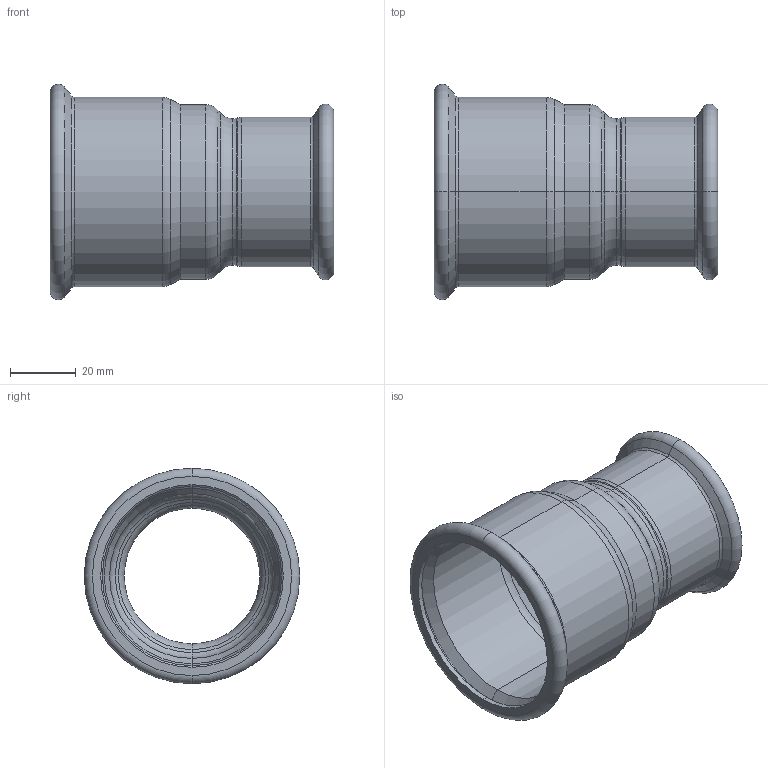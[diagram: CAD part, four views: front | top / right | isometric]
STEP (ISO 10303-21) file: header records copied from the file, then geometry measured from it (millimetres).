
FILE_DESCRIPTION (( 'STEP AP214' ), '1' );
FILE_NAME ('R544200.STEP', '2025-08-17T15:09:43', ( '' ), ( '' ), 'SwSTEP 2.0', 'SolidWorks 2020', '' );
FILE_SCHEMA (( 'AUTOMOTIVE_DESIGN' ));
Length unit declared in the file: millimetre
Products named in the file (1): R544200
Bounding box: 86 x 65.38 x 65.38 mm (x, y, z)
Volume: 24754.5 mm3; surface area: 32093.2 mm2
Topology: 1 solids, 1 shells, 76 faces, 152 edges, 80 vertices
Faces by surface type: torus 36, cone 20, cylinder 16, plane 4
Entity records: 2746 total; most frequent: DIRECTION 422, CARTESIAN_POINT 309, ORIENTED_EDGE 304, AXIS2_PLACEMENT_3D 193, EDGE_CURVE 152, CIRCLE 116, EDGE_LOOP 80, VERTEX_POINT 80
